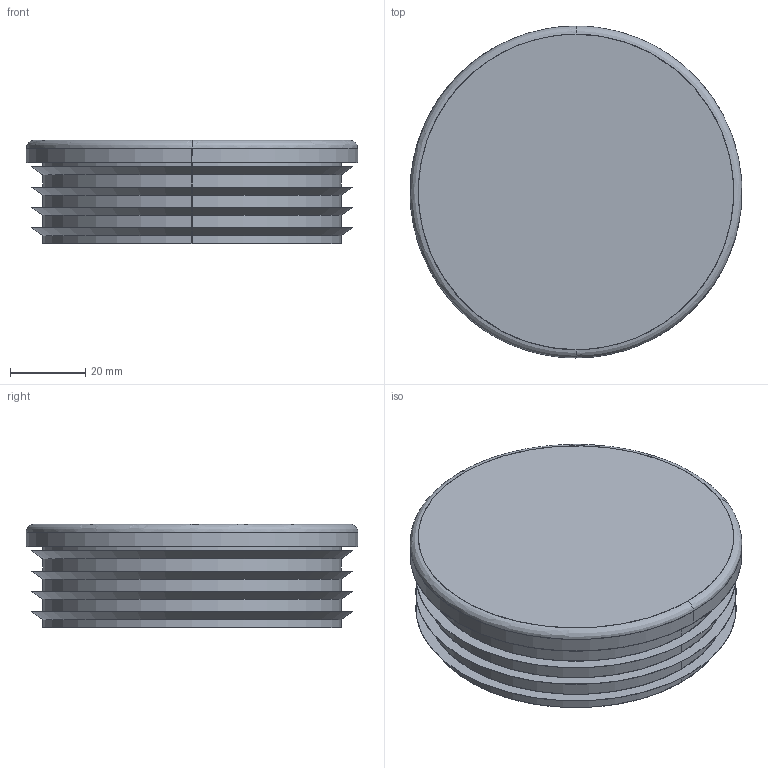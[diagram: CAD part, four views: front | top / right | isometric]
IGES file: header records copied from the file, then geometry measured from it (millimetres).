
Start section: SolidWorks IGES file using analytic representation for surfaces
Global section: file name: X:\11_SW2020-Inv2020\00_全2021-11新製品まで\p\PEC-T88-GR\pec-t88-gr.IGS; native system: SolidWorks 2020; preprocessor: SolidWorks 2020; author: ImaoCorp; date: 211026.140015; units: millimetre
Bounding box: 88 x 88 x 27.5 mm (x, y, z)
Surface area: 23675.6 mm2 (no closed solid volume)
Topology: 0 solids, 0 shells, 29 faces, 856 edges, 856 vertices
Faces by surface type: revolution 20, bspline 9
